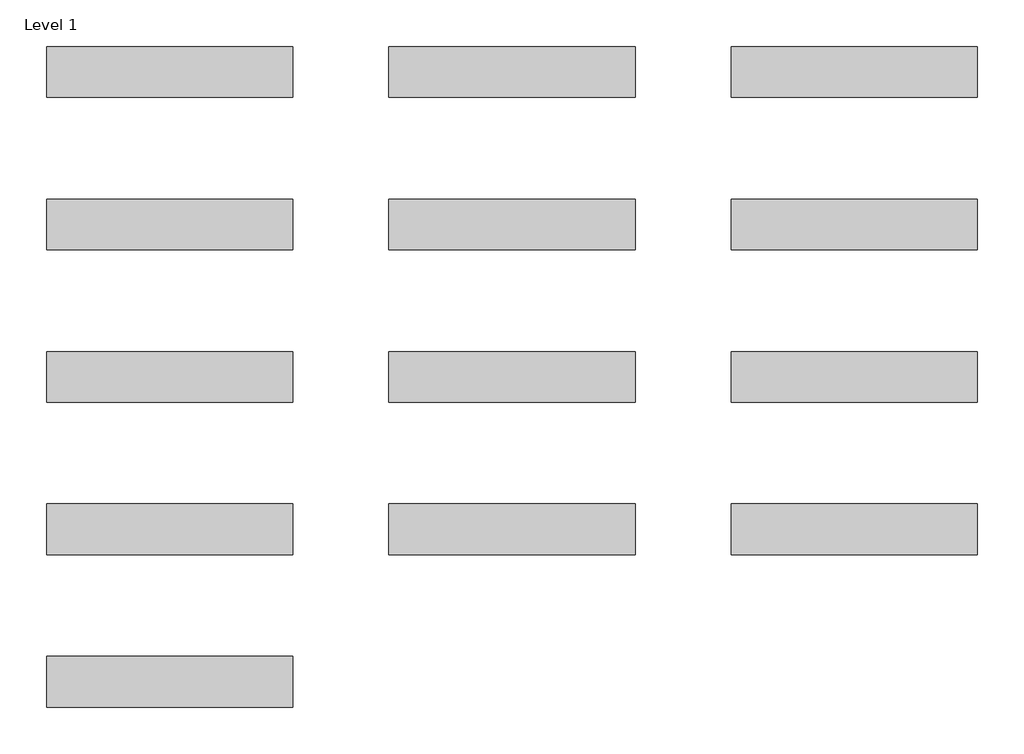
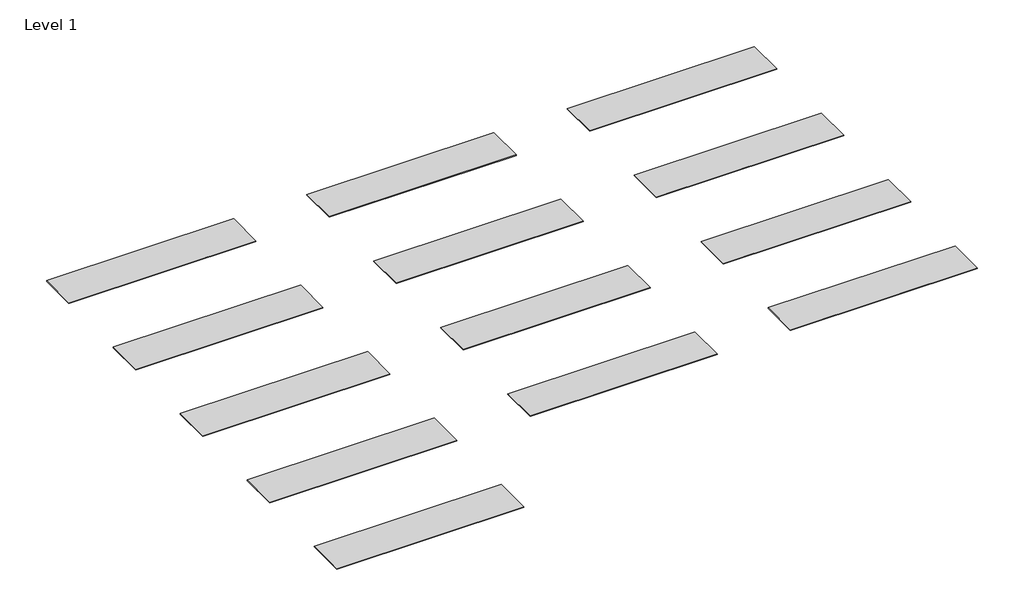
# One storey: 13 proxies.
"""IFC4 building model written with IfcOpenShell, lengths in millimetres."""

from ifc_helpers import new_model, si_unit, origin, place, context, project, spatial, transform, mapped, element, save
from components import generic_models_7f56e2ab

model = new_model("IFC4")

# Units and contexts
model_context = context("Model", 3, world=origin())
ifc_project = project(units=[si_unit("LENGTHUNIT", "METRE", prefix="MILLI")], contexts=[model_context])

# Site, building, storey
site = spatial("IfcSite", under=ifc_project)
building = spatial("IfcBuilding", under=site)
storey = spatial("IfcBuildingStorey", under=building, Name="Level 1", Elevation=0.0)

# Proxies
placement = place(None, origin())
generic_models_shape = generic_models_7f56e2ab(model_context)
element("IfcBuildingElementProxy", 1, Name="Indoor-Material_HI-MACS_Marmo : Natural-Acrylic-Stone_HI-MACS_Marmo_M103-Bologna-12mm", ObjectType="Indoor-Material_HI-MACS_Marmo : Natural-Acrylic-Stone_HI-MACS_Marmo_M103-Bologna-12mm", at=placement, inside=storey, context=model_context, shape_type="MappedRepresentation", body=[
    mapped(generic_models_shape, transform((-20811.8590579, 4227.8111796, 0.0), x_axis=(1.0, 0.0, 0.0), y_axis=(0.0, 1.0, 0.0), z_axis=(0.0, 0.0, 1.0))),
])
element("IfcBuildingElementProxy", 2, Name="Indoor-Material_HI-MACS_Marmo : Natural-Acrylic-Stone_HI-MACS_Marmo_M428-Ispani-12mm", ObjectType="Indoor-Material_HI-MACS_Marmo : Natural-Acrylic-Stone_HI-MACS_Marmo_M428-Ispani-12mm", at=placement, inside=storey, context=model_context, shape_type="MappedRepresentation", body=[
    mapped(generic_models_shape, transform((-25932.0748674, 4227.8111796, 0.0), x_axis=(1.0, 0.0, 0.0), y_axis=(0.0, 1.0, 0.0), z_axis=(0.0, 0.0, 1.0))),
])
element("IfcBuildingElementProxy", 3, Name="Indoor-Material_HI-MACS_Marmo : Natural-Acrylic-Stone_HI-MACS_Marmo_M104-Roma-12mm", ObjectType="Indoor-Material_HI-MACS_Marmo : Natural-Acrylic-Stone_HI-MACS_Marmo_M104-Roma-12mm", at=placement, inside=storey, context=model_context, shape_type="MappedRepresentation", body=[
    mapped(generic_models_shape, transform((-15691.6432484, 4227.8111796, 0.0), x_axis=(1.0, 0.0, 0.0), y_axis=(0.0, 1.0, 0.0), z_axis=(0.0, 0.0, 1.0))),
])
element("IfcBuildingElementProxy", 4, Name="Indoor-Material_HI-MACS_Marmo : Natural-Acrylic-Stone_HI-MACS_Marmo_M105-Verona-12mm", ObjectType="Indoor-Material_HI-MACS_Marmo : Natural-Acrylic-Stone_HI-MACS_Marmo_M105-Verona-12mm", at=placement, inside=storey, context=model_context, shape_type="MappedRepresentation", body=[
    mapped(generic_models_shape, transform((-25932.0748674, 1947.7143356, 0.0), x_axis=(1.0, 0.0, 0.0), y_axis=(0.0, 1.0, 0.0), z_axis=(0.0, 0.0, 1.0))),
])
element("IfcBuildingElementProxy", 5, Name="Indoor-Material_HI-MACS_Marmo : Natural-Acrylic-Stone_HI-MACS_Marmo_M201-Terni-12mm", ObjectType="Indoor-Material_HI-MACS_Marmo : Natural-Acrylic-Stone_HI-MACS_Marmo_M201-Terni-12mm", at=placement, inside=storey, context=model_context, shape_type="MappedRepresentation", body=[
    mapped(generic_models_shape, transform((-20811.8590579, 1947.7143356, 0.0), x_axis=(1.0, 0.0, 0.0), y_axis=(0.0, 1.0, 0.0), z_axis=(0.0, 0.0, 1.0))),
])
element("IfcBuildingElementProxy", 6, Name="Indoor-Material_HI-MACS_Marmo : Natural-Acrylic-Stone_HI-MACS_Marmo_M206-Monza-12mm", ObjectType="Indoor-Material_HI-MACS_Marmo : Natural-Acrylic-Stone_HI-MACS_Marmo_M206-Monza-12mm", at=placement, inside=storey, context=model_context, shape_type="MappedRepresentation", body=[
    mapped(generic_models_shape, transform((-15691.6432484, 1947.7143356, 0.0), x_axis=(1.0, 0.0, 0.0), y_axis=(0.0, 1.0, 0.0), z_axis=(0.0, 0.0, 1.0))),
])
element("IfcBuildingElementProxy", 7, Name="Indoor-Material_HI-MACS_Marmo : Natural-Acrylic-Stone_HI-MACS_Marmo_M303-Capri-12mm", ObjectType="Indoor-Material_HI-MACS_Marmo : Natural-Acrylic-Stone_HI-MACS_Marmo_M303-Capri-12mm", at=placement, inside=storey, context=model_context, shape_type="MappedRepresentation", body=[
    mapped(generic_models_shape, transform((-25932.0748674, -332.3825083, 0.0), x_axis=(1.0, 0.0, 0.0), y_axis=(0.0, 1.0, 0.0), z_axis=(0.0, 0.0, 1.0))),
])
element("IfcBuildingElementProxy", 8, Name="Indoor-Material_HI-MACS_Marmo : Natural-Acrylic-Stone_HI-MACS_Marmo_M306-Breeze-White-12mm", ObjectType="Indoor-Material_HI-MACS_Marmo : Natural-Acrylic-Stone_HI-MACS_Marmo_M306-Breeze-White-12mm", at=placement, inside=storey, context=model_context, shape_type="MappedRepresentation", body=[
    mapped(generic_models_shape, transform((-20811.8590579, -332.3825083, 0.0), x_axis=(1.0, 0.0, 0.0), y_axis=(0.0, 1.0, 0.0), z_axis=(0.0, 0.0, 1.0))),
])
element("IfcBuildingElementProxy", 9, Name="Indoor-Material_HI-MACS_Marmo : Natural-Acrylic-Stone_HI-MACS_Marmo_M422-Cremona-12mm", ObjectType="Indoor-Material_HI-MACS_Marmo : Natural-Acrylic-Stone_HI-MACS_Marmo_M422-Cremona-12mm", at=placement, inside=storey, context=model_context, shape_type="MappedRepresentation", body=[
    mapped(generic_models_shape, transform((-15691.6432484, -332.3825083, 0.0), x_axis=(1.0, 0.0, 0.0), y_axis=(0.0, 1.0, 0.0), z_axis=(0.0, 0.0, 1.0))),
])
element("IfcBuildingElementProxy", 10, Name="Indoor-Material_HI-MACS_Marmo : Natural-Acrylic-Stone_HI-MACS_Marmo_M426-Laviano-12mm", ObjectType="Indoor-Material_HI-MACS_Marmo : Natural-Acrylic-Stone_HI-MACS_Marmo_M426-Laviano-12mm", at=placement, inside=storey, context=model_context, shape_type="MappedRepresentation", body=[
    mapped(generic_models_shape, transform((-25932.0748674, -2612.4793523, 0.0), x_axis=(1.0, 0.0, 0.0), y_axis=(0.0, 1.0, 0.0), z_axis=(0.0, 0.0, 1.0))),
])
element("IfcBuildingElementProxy", 11, Name="Indoor-Material_HI-MACS_Marmo : Natural-Acrylic-Stone_HI-MACS_Marmo_M427-Bellizzi-12mm", ObjectType="Indoor-Material_HI-MACS_Marmo : Natural-Acrylic-Stone_HI-MACS_Marmo_M427-Bellizzi-12mm", at=placement, inside=storey, context=model_context, shape_type="MappedRepresentation", body=[
    mapped(generic_models_shape, transform((-20811.8590579, -2612.4793523, 0.0), x_axis=(1.0, 0.0, 0.0), y_axis=(0.0, 1.0, 0.0), z_axis=(0.0, 0.0, 1.0))),
])
element("IfcBuildingElementProxy", 12, Name="Indoor-Material_HI-MACS_Marmo : Natural-Acrylic-Stone_HI-MACS_Marmo_M501-Edessa-12mm", ObjectType="Indoor-Material_HI-MACS_Marmo : Natural-Acrylic-Stone_HI-MACS_Marmo_M501-Edessa-12mm", at=placement, inside=storey, context=model_context, shape_type="MappedRepresentation", body=[
    mapped(generic_models_shape, transform((-15691.6432484, -2612.4793523, 0.0), x_axis=(1.0, 0.0, 0.0), y_axis=(0.0, 1.0, 0.0), z_axis=(0.0, 0.0, 1.0))),
])
element("IfcBuildingElementProxy", 13, Name="Indoor-Material_HI-MACS_Marmo : Natural-Acrylic-Stone_HI-MACS_Marmo_M904-Naples-12mm", ObjectType="Indoor-Material_HI-MACS_Marmo : Natural-Acrylic-Stone_HI-MACS_Marmo_M904-Naples-12mm", at=placement, inside=storey, context=model_context, shape_type="MappedRepresentation", body=[
    mapped(generic_models_shape, transform((-25932.0748674, -4892.5761963, 0.0), x_axis=(1.0, 0.0, 0.0), y_axis=(0.0, 1.0, 0.0), z_axis=(0.0, 0.0, 1.0))),
])

save(model, "model.ifc")
